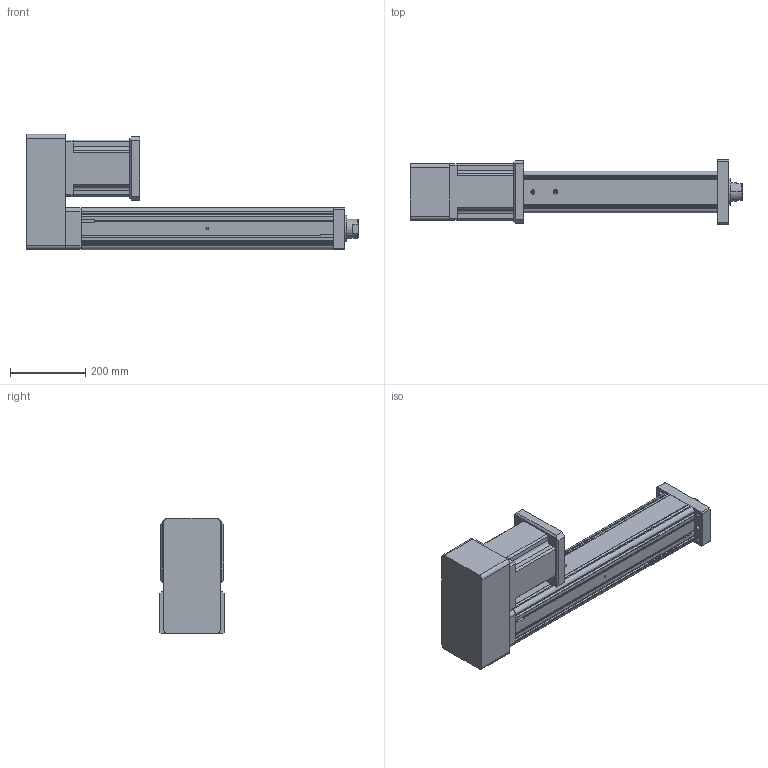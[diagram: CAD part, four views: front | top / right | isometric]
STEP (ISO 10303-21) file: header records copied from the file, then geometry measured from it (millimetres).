
FILE_DESCRIPTION (( 'STEP AP203' ), '1' );
FILE_NAME ('YRJ110-L500-H3K2.STEP', '2020-01-04T06:33:47', ( 'User' ), ( 'China' ), 'SwSTEP 2.0', 'SolidWorks 2016', '' );
FILE_SCHEMA (( 'CONFIG_CONTROL_DESIGN' ));
Length unit declared in the file: millimetre
Products named in the file (7): H3-110-1; H3-110-2; K2-110; YRJ110-L500-H3K2; 095-100俴最倰第; 萇儂碟-110; 142熬厒儂
Assembly tree (6 placements, depth 2):
  YRJ110-L500-H3K2
    095-100俴最倰第
    萇儂碟-110
    142熬厒儂
    H3-110-1
    H3-110-2
    K2-110
Bounding box: 881 x 170 x 305.5 mm (x, y, z)
Volume: 12680101.7 mm3; surface area: 1081756.3 mm2
Topology: 6 solids, 6 shells, 306 faces, 850 edges, 549 vertices
Faces by surface type: plane 165, cylinder 114, cone 27
Entity records: 10786 total; most frequent: CARTESIAN_POINT 2038, DIRECTION 1685, ORIENTED_EDGE 1668, EDGE_CURVE 834, VECTOR 569, LINE 569, AXIS2_PLACEMENT_3D 558, VERTEX_POINT 549
